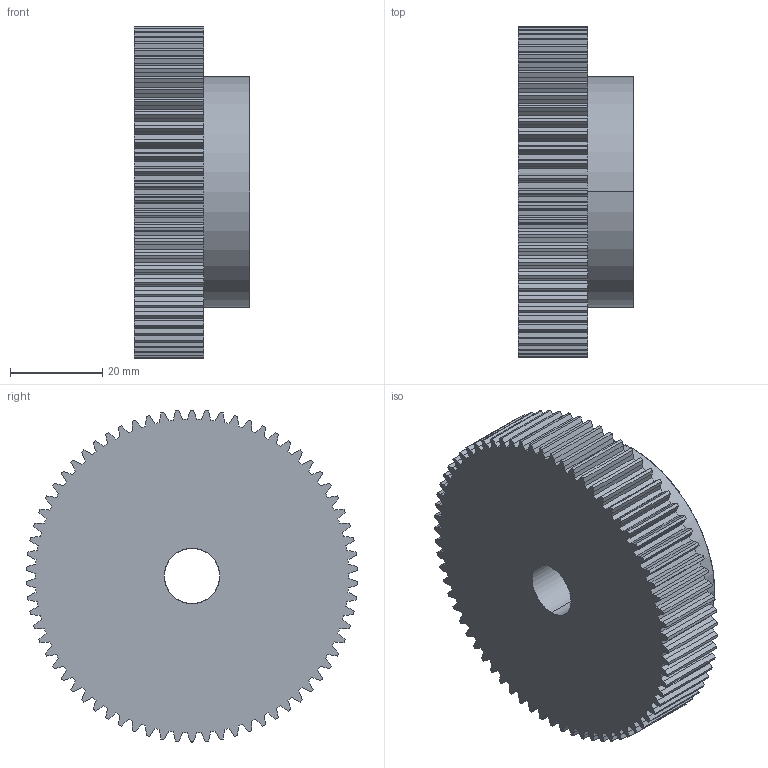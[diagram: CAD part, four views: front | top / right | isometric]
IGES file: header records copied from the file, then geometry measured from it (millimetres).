
Start section: SolidWorks IGES file using analytic representation for surfaces
Global section: file name: C:\Users\Honza\Desktop\Matis (Hotove)\Èelní ozubená kola\PM\MODUL 1\PM 26070.IGS; native system: SolidWorks 2010; preprocessor: SolidWorks 2010; author: Honza; date: 130923.154928; units: millimetre
Bounding box: 25 x 71.95 x 72 mm (x, y, z)
Surface area: 16170.9 mm2 (no closed solid volume)
Topology: 0 solids, 0 shells, 427 faces, 2728 edges, 2728 vertices
Faces by surface type: bspline 283, revolution 144
